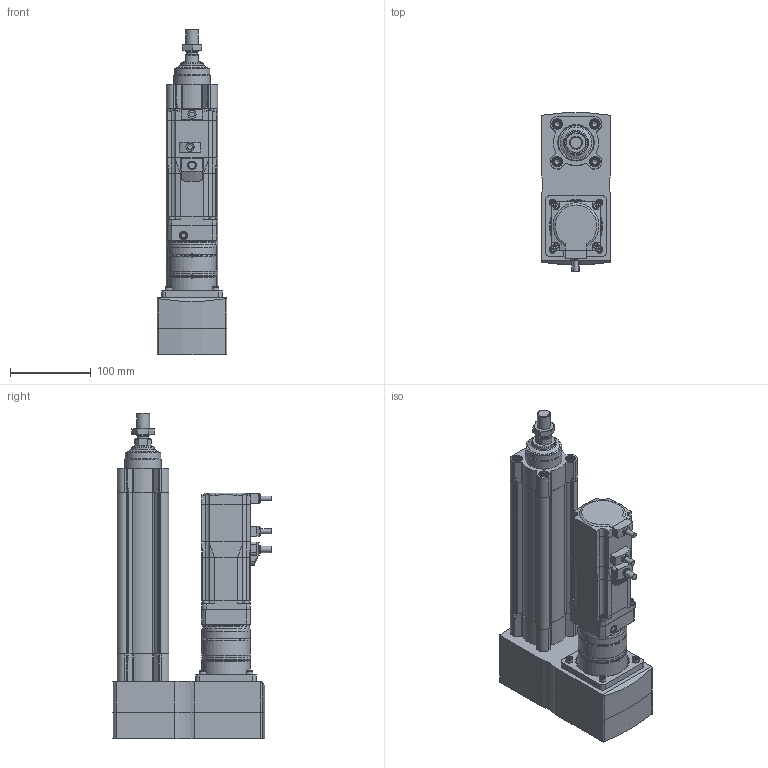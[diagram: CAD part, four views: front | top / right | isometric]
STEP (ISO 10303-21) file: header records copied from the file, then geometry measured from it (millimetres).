
FILE_DESCRIPTION(/* description */ (''),/* implementation_level */ '2;1');
FILE_NAME(/* name */ 'C:\Vault\Designs\J7\J96504.stp',/* time_stamp */ '2023-02-02T12:06:26+09:00',/* author */ ('jp6u7016'),/* organization */ (''),/* preprocessor_version */ 'ST-DEVELOPER v18.1',/* originating_system */ 'Autodesk Inventor 2021',/* authorisation */ '');
FILE_SCHEMA (('AUTOMOTIVE_DESIGN { 1 0 10303 214 3 1 1 }'));
Length unit declared in the file: millimetre
Products named in the file (19): J96504; 8022597 ESBF-BS-50-100-20P---(0); ESBF-BS-50-100---(ZR_-_-); ESBF-BS-50-100-20P---(KS_0); DIN-439-B - M16x1.5(F); 2540033 GUK M15x1; ESBF-BS-50-ESBF-BS-50---(KSA); 2803326 EAMM-U-86-D50-60H-102; 2799629 EAMM-U-86-D50-75B-102---(UT); 2799531 EAMM-U-86-D50-...-188.5---(OT); DIN-912 - M6x40(F); DIN 557 - M5; DIN-6912 - M8x20(F); 2318734 EAMF-U-75B-60G/H---(ADAX); DIN-912 - M5x10(F); DIN-912 - M5x18(F); PG2_060-004_ARM6; AZM69MC; JIS B 1176 - M4 x 15
Assembly tree (37 placements, depth 3):
  J96504
    8022597 ESBF-BS-50-100-20P---(0)
      ESBF-BS-50-100---(ZR_-_-)
      ESBF-BS-50-100-20P---(KS_0)
      DIN-439-B - M16x1.5(F)
      2540033 GUK M15x1
      ESBF-BS-50-ESBF-BS-50---(KSA)
    2803326 EAMM-U-86-D50-60H-102
      2799629 EAMM-U-86-D50-75B-102---(UT)
      2799531 EAMM-U-86-D50-...-188.5---(OT)
      DIN-912 - M6x40(F)  x5
      DIN 557 - M5  x4
      DIN-6912 - M8x20(F)  x4
      2318734 EAMF-U-75B-60G/H---(ADAX)
      DIN-912 - M5x10(F)  x4
      DIN-912 - M5x18(F)  x4
    PG2_060-004_ARM6
    AZM69MC
    JIS B 1176 - M4 x 15  x4
Bounding box: 86 x 196.12 x 402.5 mm (x, y, z)
Volume: 2104245.4 mm3; surface area: 476022.4 mm2
Topology: 46 solids, 60 shells, 1888 faces, 4612 edges, 2941 vertices
Faces by surface type: plane 926, cylinder 484, cone 376, torus 96, bspline 5, sphere 1
Full cylindrical faces by diameter (mm): 2.5 x4, 3 x4, 3.3 x4, 4 x12, 4.134 x4, 4.2 x4, 4.3 x2, 4.5 x4, 4.917 x5, 5 x14, 5.3 x9, 5.6 x1, 6 x8, 6.6 x5, 6.647 x14, 7 x4, 7.4 x1, 8 x13, 8.1 x1, 8.5 x8, 9 x4, 9.5 x2, 10 x9, 10.5 x2, 11 x6, 12 x9, 12.5 x1, 13 x12, 13.5 x1, 13.6 x1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
Entity records: 45280 total; most frequent: CARTESIAN_POINT 9626, DIRECTION 7488, ORIENTED_EDGE 7165, EDGE_CURVE 3597, AXIS2_PLACEMENT_3D 2825, VERTEX_POINT 2365, LINE 1838, VECTOR 1838
